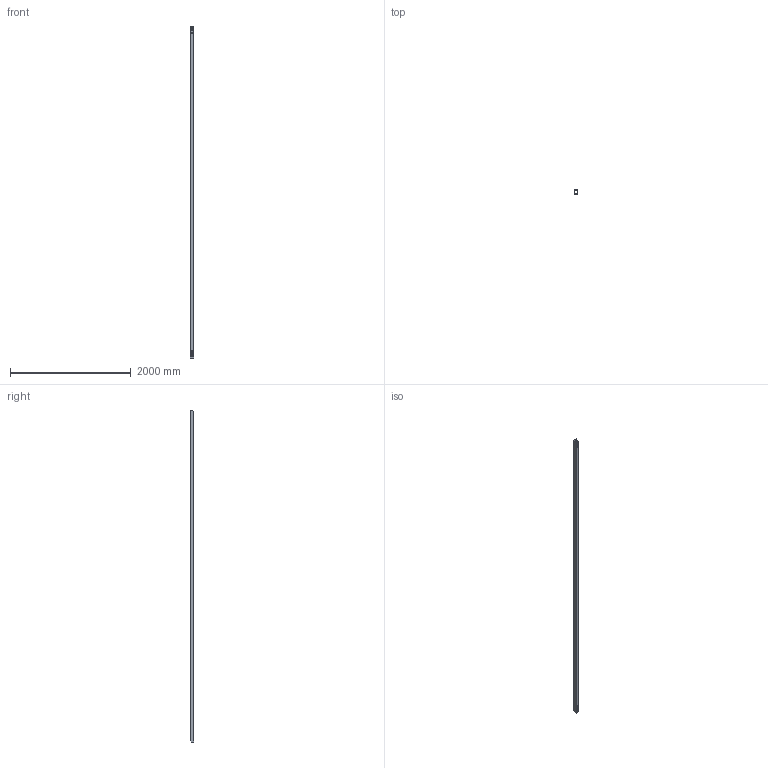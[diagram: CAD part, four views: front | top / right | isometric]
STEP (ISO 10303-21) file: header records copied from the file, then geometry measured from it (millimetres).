
FILE_DESCRIPTION(('Open CASCADE Model'),'2;1');
FILE_NAME('Open CASCADE Shape Model','2026-10-15T15:10:05',('Author'),( 'Open CASCADE'),'Open CASCADE STEP processor 8.0','Open CASCADE 8.0' ,'Unknown');
FILE_SCHEMA(('AUTOMOTIVE_DESIGN { 1 0 10303 214 1 1 1 1 }'));
Length unit declared in the file: millimetre
Products named in the file (1): BRT_A_FINAL_P05 160
Bounding box: 60 x 60 x 5499.97 mm (x, y, z)
Volume: 4884890.7 mm3; surface area: 2448629.8 mm2
Topology: 1 solids, 1 shells, 30 faces, 90 edges, 60 vertices
Faces by surface type: plane 24, cylinder 6
Entity records: 2120 total; most frequent: CARTESIAN_POINT 485, DIRECTION 250, ORIENTED_EDGE 180, PCURVE 180, DEFINITIONAL_REPRESENTATION 180, LINE 158, VECTOR 158, EDGE_CURVE 90
